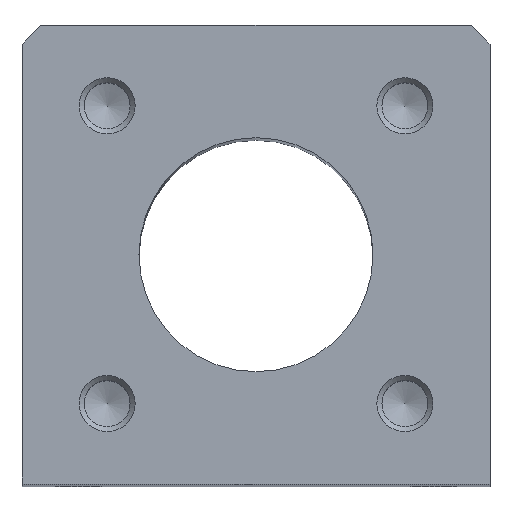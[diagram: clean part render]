
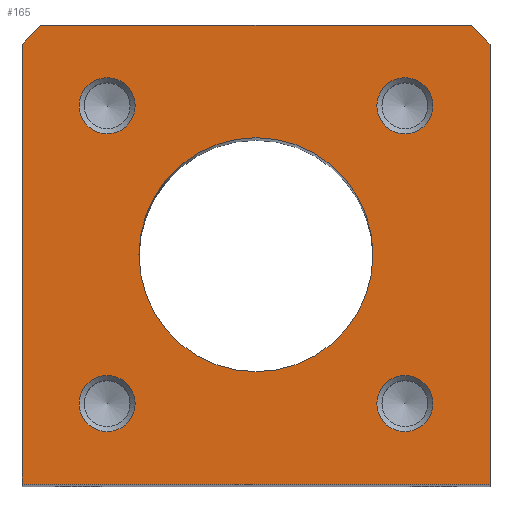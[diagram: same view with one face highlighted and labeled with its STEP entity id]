
A CAD part, top view. The second image highlights one B-rep face of the part: STEP entity #165.
In plain terms, the highlighted planar face has unit normal (0, 0, 1).
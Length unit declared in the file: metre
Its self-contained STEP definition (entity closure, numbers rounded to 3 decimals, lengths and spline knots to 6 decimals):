
#165 = ADVANCED_FACE( '', ( #383, #384, #385, #386, #387, #388 ), #389, .F. );
#383 = FACE_BOUND( '', #652, .T. );
#384 = FACE_BOUND( '', #653, .T. );
#385 = FACE_BOUND( '', #654, .T. );
#386 = FACE_BOUND( '', #655, .T. );
#387 = FACE_BOUND( '', #656, .T. );
#388 = FACE_OUTER_BOUND( '', #657, .T. );
#389 = PLANE( '', #658 );
#652 = EDGE_LOOP( '', ( #1011 ) );
#653 = EDGE_LOOP( '', ( #1012 ) );
#654 = EDGE_LOOP( '', ( #1013 ) );
#655 = EDGE_LOOP( '', ( #1014 ) );
#656 = EDGE_LOOP( '', ( #1015 ) );
#657 = EDGE_LOOP( '', ( #1016, #1017, #1018, #1019, #1020, #1021 ) );
#658 = AXIS2_PLACEMENT_3D( '', #1022, #1023, #1024 );
#1011 = ORIENTED_EDGE( '', *, *, #1242, .T. );
#1012 = ORIENTED_EDGE( '', *, *, #1292, .T. );
#1013 = ORIENTED_EDGE( '', *, *, #1272, .F. );
#1014 = ORIENTED_EDGE( '', *, *, #1267, .F. );
#1015 = ORIENTED_EDGE( '', *, *, #1255, .T. );
#1016 = ORIENTED_EDGE( '', *, *, #1213, .F. );
#1017 = ORIENTED_EDGE( '', *, *, #1279, .T. );
#1018 = ORIENTED_EDGE( '', *, *, #1206, .F. );
#1019 = ORIENTED_EDGE( '', *, *, #1293, .F. );
#1020 = ORIENTED_EDGE( '', *, *, #1229, .F. );
#1021 = ORIENTED_EDGE( '', *, *, #1289, .T. );
#1022 = CARTESIAN_POINT( '', ( -0.025, 0.0245, 0. ) );
#1023 = DIRECTION( '', ( 0., 0., -1. ) );
#1024 = DIRECTION( '', ( 0., 1., 0. ) );
#1206 = EDGE_CURVE( '', #1365, #1366, #1367, .T. );
#1213 = EDGE_CURVE( '', #1377, #1379, #1380, .T. );
#1229 = EDGE_CURVE( '', #1404, #1406, #1407, .T. );
#1242 = EDGE_CURVE( '', #1426, #1426, #1427, .T. );
#1255 = EDGE_CURVE( '', #1442, #1442, #1443, .T. );
#1267 = EDGE_CURVE( '', #1459, #1459, #1460, .T. );
#1272 = EDGE_CURVE( '', #1467, #1467, #1468, .T. );
#1279 = EDGE_CURVE( '', #1377, #1366, #1478, .F. );
#1289 = EDGE_CURVE( '', #1404, #1379, #1491, .F. );
#1292 = EDGE_CURVE( '', #1494, #1494, #1495, .T. );
#1293 = EDGE_CURVE( '', #1406, #1365, #1496, .T. );
#1365 = VERTEX_POINT( '', #1576 );
#1366 = VERTEX_POINT( '', #1577 );
#1367 = LINE( '', #1578, #1579 );
#1377 = VERTEX_POINT( '', #1593 );
#1379 = VERTEX_POINT( '', #1596 );
#1380 = LINE( '', #1597, #1598 );
#1404 = VERTEX_POINT( '', #1624 );
#1406 = VERTEX_POINT( '', #1627 );
#1407 = LINE( '', #1628, #1629 );
#1426 = VERTEX_POINT( '', #1649 );
#1427 = CIRCLE( '', #1650, 0.0125 );
#1442 = VERTEX_POINT( '', #1665 );
#1443 = CIRCLE( '', #1666, 0.003 );
#1459 = VERTEX_POINT( '', #1685 );
#1460 = CIRCLE( '', #1686, 0.003 );
#1467 = VERTEX_POINT( '', #1693 );
#1468 = CIRCLE( '', #1694, 0.003 );
#1478 = LINE( '', #1704, #1705 );
#1491 = LINE( '', #1718, #1719 );
#1494 = VERTEX_POINT( '', #1722 );
#1495 = CIRCLE( '', #1723, 0.003 );
#1496 = LINE( '', #1724, #1725 );
#1576 = CARTESIAN_POINT( '', ( -0.025, -0.0245, 0. ) );
#1577 = CARTESIAN_POINT( '', ( -0.025, 0.0225, 0. ) );
#1578 = CARTESIAN_POINT( '', ( -0.025, -0.0245, 0. ) );
#1579 = VECTOR( '', #1809, 1. );
#1593 = CARTESIAN_POINT( '', ( -0.023, 0.0245, 0. ) );
#1596 = CARTESIAN_POINT( '', ( 0.023, 0.0245, 0. ) );
#1597 = CARTESIAN_POINT( '', ( -0.025, 0.0245, 0. ) );
#1598 = VECTOR( '', #1815, 1. );
#1624 = CARTESIAN_POINT( '', ( 0.025, 0.0225, 0. ) );
#1627 = CARTESIAN_POINT( '', ( 0.025, -0.0245, 0. ) );
#1628 = CARTESIAN_POINT( '', ( 0.025, 0.0245, 0. ) );
#1629 = VECTOR( '', #1840, 1. );
#1649 = CARTESIAN_POINT( '', ( -0.0125, 0., 0. ) );
#1650 = AXIS2_PLACEMENT_3D( '', #1860, #1861, #1862 );
#1665 = CARTESIAN_POINT( '', ( 0.01291, 0.01591, 0. ) );
#1666 = AXIS2_PLACEMENT_3D( '', #1875, #1876, #1877 );
#1685 = CARTESIAN_POINT( '', ( -0.01291, 0.01591, 0. ) );
#1686 = AXIS2_PLACEMENT_3D( '', #1893, #1894, #1895 );
#1693 = CARTESIAN_POINT( '', ( 0.01291, -0.01591, 0. ) );
#1694 = AXIS2_PLACEMENT_3D( '', #1902, #1903, #1904 );
#1704 = CARTESIAN_POINT( '', ( -0.023, 0.0245, 0. ) );
#1705 = VECTOR( '', #1914, 1. );
#1718 = CARTESIAN_POINT( '', ( 0.025, 0.0225, 0. ) );
#1719 = VECTOR( '', #1927, 1. );
#1722 = CARTESIAN_POINT( '', ( -0.01291, -0.01591, 0. ) );
#1723 = AXIS2_PLACEMENT_3D( '', #1928, #1929, #1930 );
#1724 = CARTESIAN_POINT( '', ( 0.025, -0.0245, 0. ) );
#1725 = VECTOR( '', #1931, 1. );
#1809 = DIRECTION( '', ( 0., 1., 0. ) );
#1815 = DIRECTION( '', ( 1., 0., 0. ) );
#1840 = DIRECTION( '', ( 0., -1., 0. ) );
#1860 = CARTESIAN_POINT( '', ( 0., 0., 0. ) );
#1861 = DIRECTION( '', ( 0., 0., -1. ) );
#1862 = DIRECTION( '', ( -1., 0., 0. ) );
#1875 = CARTESIAN_POINT( '', ( 0.01591, 0.01591, 0. ) );
#1876 = DIRECTION( '', ( 0., 0., -1. ) );
#1877 = DIRECTION( '', ( -1., 0., 0. ) );
#1893 = CARTESIAN_POINT( '', ( -0.01591, 0.01591, 0. ) );
#1894 = DIRECTION( '', ( 0., 0., 1. ) );
#1895 = DIRECTION( '', ( 1., 0., 0. ) );
#1902 = CARTESIAN_POINT( '', ( 0.01591, -0.01591, 0. ) );
#1903 = DIRECTION( '', ( 0., 0., 1. ) );
#1904 = DIRECTION( '', ( -1., 0., 0. ) );
#1914 = DIRECTION( '', ( 0.707, 0.707, 0. ) );
#1927 = DIRECTION( '', ( 0.707, -0.707, 0. ) );
#1928 = CARTESIAN_POINT( '', ( -0.01591, -0.01591, 0. ) );
#1929 = DIRECTION( '', ( 0., 0., -1. ) );
#1930 = DIRECTION( '', ( 1., 0., 0. ) );
#1931 = DIRECTION( '', ( -1., 0., 0. ) );
